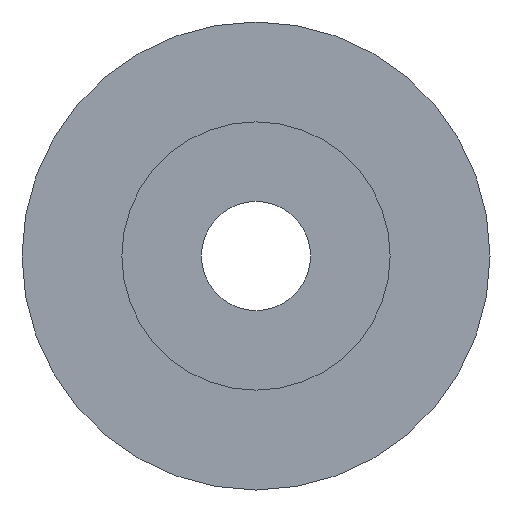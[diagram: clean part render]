
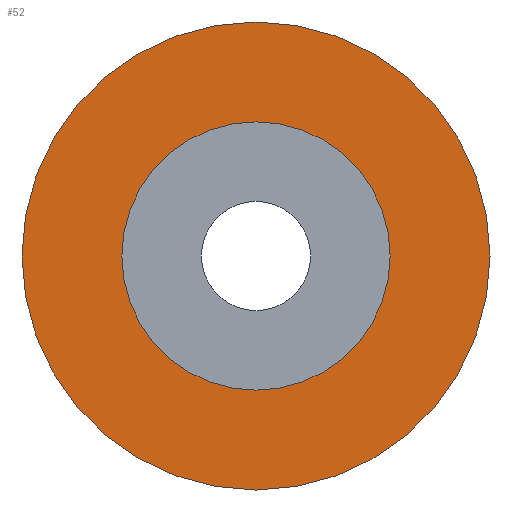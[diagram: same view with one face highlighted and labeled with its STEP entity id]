
A CAD part, left-side view. The second image highlights one B-rep face of the part: STEP entity #52.
In plain terms, the highlighted planar face has unit normal (-1, 0, 0).
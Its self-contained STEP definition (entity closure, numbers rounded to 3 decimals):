
#42=PLANE('',#251);
#52=ADVANCED_FACE('',(#86,#87),#42,.T.);
#86=FACE_BOUND('',#122,.T.);
#87=FACE_BOUND('',#123,.T.);
#122=EDGE_LOOP('',(#158));
#123=EDGE_LOOP('',(#159));
#158=ORIENTED_EDGE('',*,*,#205,.T.);
#159=ORIENTED_EDGE('',*,*,#204,.F.);
#186=VERTEX_POINT('',#368);
#187=VERTEX_POINT('',#371);
#204=EDGE_CURVE('',#186,#186,#222,.T.);
#205=EDGE_CURVE('',#187,#187,#223,.T.);
#222=CIRCLE('',#248,8.6);
#223=CIRCLE('',#250,15.);
#248=AXIS2_PLACEMENT_3D('',#367,#301,#302);
#250=AXIS2_PLACEMENT_3D('',#370,#305,#306);
#251=AXIS2_PLACEMENT_3D('',#372,#307,#308);
#301=DIRECTION('',(-1.,0.,0.));
#302=DIRECTION('',(0.,0.,1.));
#305=DIRECTION('',(-1.,0.,0.));
#306=DIRECTION('',(0.,0.,1.));
#307=DIRECTION('',(-1.,0.,0.));
#308=DIRECTION('',(0.,0.,1.));
#367=CARTESIAN_POINT('',(0.,0.,0.));
#368=CARTESIAN_POINT('',(0.,0.,8.6));
#370=CARTESIAN_POINT('',(0.,0.,0.));
#371=CARTESIAN_POINT('',(0.,0.,15.));
#372=CARTESIAN_POINT('',(0.,8.6,0.));
